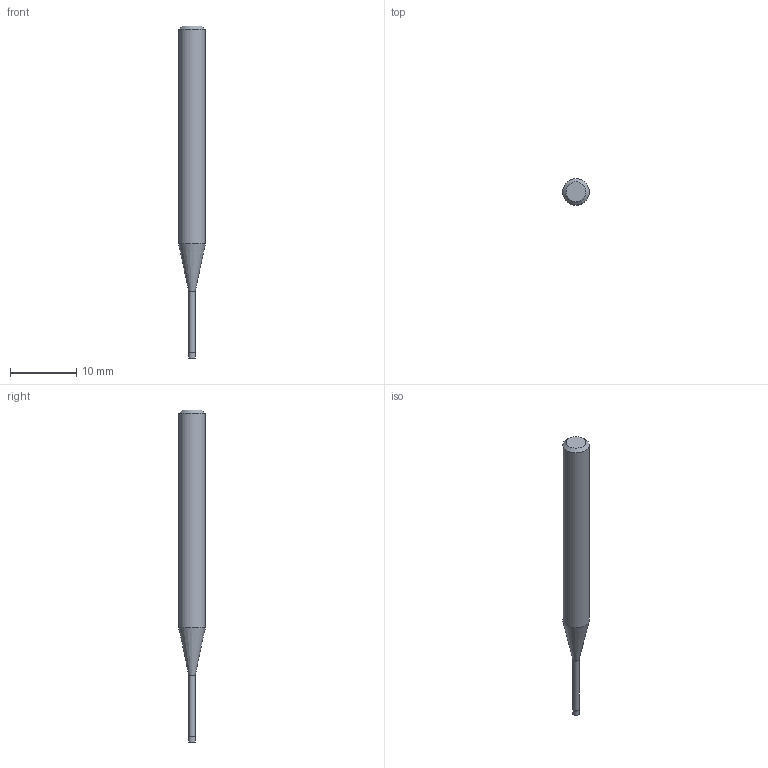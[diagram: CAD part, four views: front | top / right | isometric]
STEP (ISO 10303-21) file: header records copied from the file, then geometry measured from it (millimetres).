
FILE_DESCRIPTION((''),'2;1');
FILE_NAME('C:\Users\nsx150\AppData\Local\Temp\Mastercam 2021\RJ5U8K7RMU\TEMP.step','2021-04-21T16:41:05',(''),(''),'STEP Write','Mastercam 2021 ... CNC Software, Inc.','');
FILE_SCHEMA(('AUTOMOTIVE_DESIGN'));
Length unit declared in the file: millimetre
Products named in the file (1): None
Bounding box: 4 x 4 x 50 mm (x, y, z)
Volume: 457.1 mm3; surface area: 510.3 mm2
Topology: 2 solids, 2 shells, 9 faces, 12 edges, 7 vertices
Faces by surface type: plane 4, cylinder 3, cone 2
Full cylindrical faces by diameter (mm): 0.95 x1, 1 x1, 4 x1
Entity records: 211 total; most frequent: DIRECTION 36, CARTESIAN_POINT 25, AXIS2_PLACEMENT_3D 18, ORIENTED_EDGE 14, EDGE_LOOP 14, STYLED_ITEM 12, ADVANCED_FACE 9, FACE_BOUND 8
